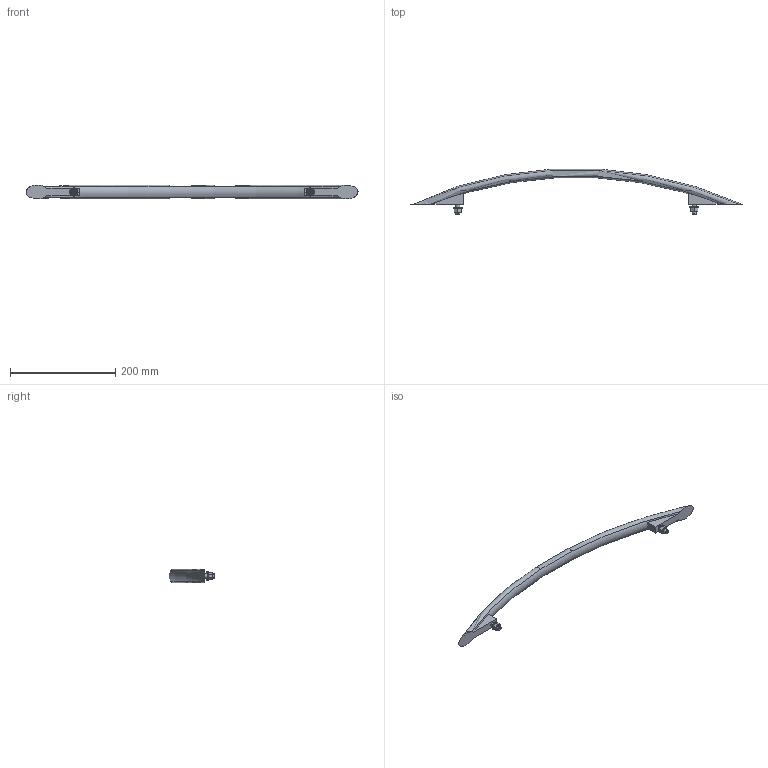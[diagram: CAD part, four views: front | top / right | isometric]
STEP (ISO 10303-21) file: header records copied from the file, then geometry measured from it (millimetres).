
FILE_DESCRIPTION( ( 'STEP AP203' ), '1' );
FILE_NAME( 'C:/Temp/Ganter_Step_05_03_2020/data/1_2/gn_665/Arch handle GN 665-26-450-SW.stp', '2020-03-05T10:12:38', ( 'License CC BY-ND 4.0' ), ( 'CADENAS' ), ' ', 'PARTsolutions', ' ' );
FILE_SCHEMA( ( 'CONFIG_CONTROL_DESIGN' ) );
Length unit declared in the file: millimetre
Products named in the file (3): Arch handle GN 665-26-450-SW; _Bogengriff GN 665-26-450-SW-1; HI_Sechskantmutter ISO 4032/125-M8
Assembly tree (3 placements, depth 2):
  Arch handle GN 665-26-450-SW
    _Bogengriff GN 665-26-450-SW-1
    HI_Sechskantmutter ISO 4032/125-M8  x2
Bounding box: 631.98 x 87.13 x 25.98 mm (x, y, z)
Volume: 232942.7 mm3; surface area: 49446.6 mm2
Topology: 3 solids, 3 shells, 62 faces, 148 edges, 98 vertices
Faces by surface type: plane 38, cone 12, cylinder 8, torus 4
Full cylindrical faces by diameter (mm): 6.647 x2, 8 x2, 8.4 x2, 16 x2
Entity records: 1578 total; most frequent: CARTESIAN_POINT 497, DIRECTION 194, ORIENTED_EDGE 192, EDGE_CURVE 96, AXIS2_PLACEMENT_3D 81, VERTEX_POINT 68, EDGE_LOOP 60, FACE_OUTER_BOUND 50
